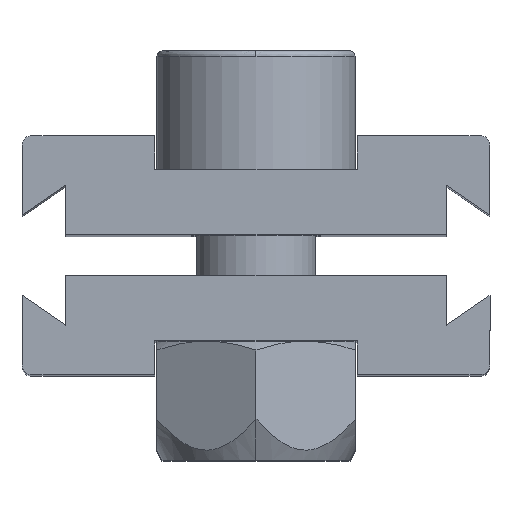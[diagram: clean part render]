
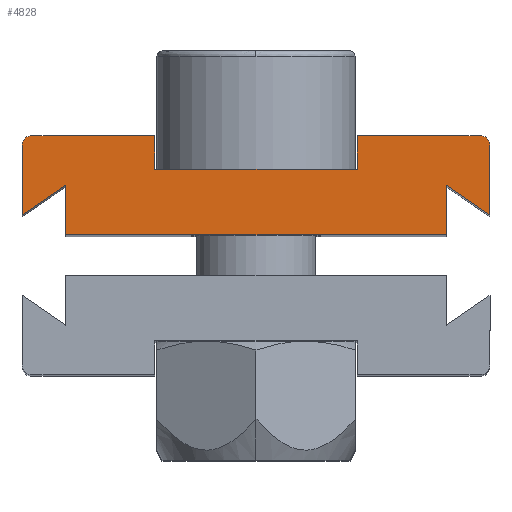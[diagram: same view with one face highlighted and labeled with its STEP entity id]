
A CAD part, top view. The second image highlights one B-rep face of the part: STEP entity #4828.
In plain terms, the highlighted planar face has unit normal (0, 0, 1).
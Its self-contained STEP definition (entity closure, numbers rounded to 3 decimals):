
#14 = LINE ( 'NONE', #1816, #3374 ) ;
#65 = ORIENTED_EDGE ( 'NONE', *, *, #328, .T. ) ;
#98 = LINE ( 'NONE', #1991, #2692 ) ;
#123 = CIRCLE ( 'NONE', #4465, 0.5 ) ;
#215 = VECTOR ( 'NONE', #1775, 1000. ) ;
#240 = DIRECTION ( 'NONE',  ( 0., 0., -1. ) ) ;
#265 = VERTEX_POINT ( 'NONE', #1404 ) ;
#284 = EDGE_CURVE ( 'NONE', #2846, #265, #1790, .T. ) ;
#297 = CARTESIAN_POINT ( 'NONE',  ( -11.3, 6.027, 0. ) ) ;
#328 = EDGE_CURVE ( 'NONE', #2566, #3628, #14, .T. ) ;
#346 = AXIS2_PLACEMENT_3D ( 'NONE', #4877, #4152, #3793 ) ;
#391 = CARTESIAN_POINT ( 'NONE',  ( 11.8, 5.527, 0. ) ) ;
#441 = ORIENTED_EDGE ( 'NONE', *, *, #4748, .F. ) ;
#452 = LINE ( 'NONE', #297, #2397 ) ;
#500 = ORIENTED_EDGE ( 'NONE', *, *, #2763, .T. ) ;
#570 = ORIENTED_EDGE ( 'NONE', *, *, #2591, .T. ) ;
#602 = LINE ( 'NONE', #868, #3008 ) ;
#625 = ORIENTED_EDGE ( 'NONE', *, *, #4641, .T. ) ;
#660 = CARTESIAN_POINT ( 'NONE',  ( -11.3, 6.027, 0. ) ) ;
#662 = CARTESIAN_POINT ( 'NONE',  ( 5.1, 6.027, 0. ) ) ;
#693 = LINE ( 'NONE', #3277, #215 ) ;
#745 = CARTESIAN_POINT ( 'NONE',  ( 11.3, 6.027, 0. ) ) ;
#868 = CARTESIAN_POINT ( 'NONE',  ( -9.6, 5.527, 0. ) ) ;
#1009 = FACE_OUTER_BOUND ( 'NONE', #4672, .T. ) ;
#1016 = CARTESIAN_POINT ( 'NONE',  ( 9.6, 1.027, 0. ) ) ;
#1021 = VERTEX_POINT ( 'NONE', #391 ) ;
#1032 = ORIENTED_EDGE ( 'NONE', *, *, #1362, .T. ) ;
#1047 = LINE ( 'NONE', #1464, #1813 ) ;
#1059 = VECTOR ( 'NONE', #2010, 1000. ) ;
#1101 = CARTESIAN_POINT ( 'NONE',  ( -11.8, 5.527, 0. ) ) ;
#1112 = AXIS2_PLACEMENT_3D ( 'NONE', #3653, #4040, #4394 ) ;
#1126 = DIRECTION ( 'NONE',  ( -1., 0., 0. ) ) ;
#1140 = ORIENTED_EDGE ( 'NONE', *, *, #3999, .T. ) ;
#1176 = EDGE_CURVE ( 'NONE', #4318, #4144, #98, .T. ) ;
#1304 = DIRECTION ( 'NONE',  ( 0., -1., 0. ) ) ;
#1362 = EDGE_CURVE ( 'NONE', #2844, #3921, #1047, .T. ) ;
#1404 = CARTESIAN_POINT ( 'NONE',  ( -11.3, 6.027, 0. ) ) ;
#1406 = EDGE_CURVE ( 'NONE', #3035, #2566, #693, .T. ) ;
#1464 = CARTESIAN_POINT ( 'NONE',  ( -11.8, 2.027, 0. ) ) ;
#1500 = VERTEX_POINT ( 'NONE', #1101 ) ;
#1532 = CARTESIAN_POINT ( 'NONE',  ( -5.1, 4.327, 0. ) ) ;
#1546 = DIRECTION ( 'NONE',  ( 0., 1., 0. ) ) ;
#1590 = EDGE_CURVE ( 'NONE', #3076, #4318, #452, .T. ) ;
#1594 = VECTOR ( 'NONE', #4759, 1000. ) ;
#1694 = CARTESIAN_POINT ( 'NONE',  ( -5.1, 4.327, 0. ) ) ;
#1702 = CARTESIAN_POINT ( 'NONE',  ( 11.8, 2.027, 0. ) ) ;
#1775 = DIRECTION ( 'NONE',  ( 0., 1., 0. ) ) ;
#1790 = LINE ( 'NONE', #660, #3133 ) ;
#1813 = VECTOR ( 'NONE', #2904, 1000. ) ;
#1816 = CARTESIAN_POINT ( 'NONE',  ( 9.6, 3.527, 0. ) ) ;
#1850 = ORIENTED_EDGE ( 'NONE', *, *, #3504, .T. ) ;
#1910 = CARTESIAN_POINT ( 'NONE',  ( 11.8, 5.527, 0. ) ) ;
#1937 = CARTESIAN_POINT ( 'NONE',  ( -9.6, 3.527, 0. ) ) ;
#1991 = CARTESIAN_POINT ( 'NONE',  ( 5.1, 6.027, 0. ) ) ;
#2010 = DIRECTION ( 'NONE',  ( 0., -1., 0. ) ) ;
#2043 = ORIENTED_EDGE ( 'NONE', *, *, #1176, .T. ) ;
#2051 = CARTESIAN_POINT ( 'NONE',  ( 5.1, 4.327, 0. ) ) ;
#2061 = LINE ( 'NONE', #4282, #1059 ) ;
#2083 = ORIENTED_EDGE ( 'NONE', *, *, #284, .T. ) ;
#2097 = VERTEX_POINT ( 'NONE', #3626 ) ;
#2289 = LINE ( 'NONE', #1910, #4643 ) ;
#2397 = VECTOR ( 'NONE', #3747, 1000. ) ;
#2482 = LINE ( 'NONE', #3288, #1594 ) ;
#2566 = VERTEX_POINT ( 'NONE', #3639 ) ;
#2569 = PLANE ( 'NONE',  #1112 ) ;
#2591 = EDGE_CURVE ( 'NONE', #2097, #3035, #2482, .T. ) ;
#2645 = LINE ( 'NONE', #1532, #4404 ) ;
#2654 = EDGE_CURVE ( 'NONE', #3628, #1021, #2289, .T. ) ;
#2692 = VECTOR ( 'NONE', #1304, 1000. ) ;
#2763 = EDGE_CURVE ( 'NONE', #4147, #2846, #2645, .T. ) ;
#2844 = VERTEX_POINT ( 'NONE', #4627 ) ;
#2846 = VERTEX_POINT ( 'NONE', #3873 ) ;
#2887 = CIRCLE ( 'NONE', #346, 0.5 ) ;
#2904 = DIRECTION ( 'NONE',  ( 0.826, 0.563, 0. ) ) ;
#3008 = VECTOR ( 'NONE', #4631, 1000. ) ;
#3035 = VERTEX_POINT ( 'NONE', #1016 ) ;
#3054 = DIRECTION ( 'NONE',  ( 0., 1., 0. ) ) ;
#3076 = VERTEX_POINT ( 'NONE', #745 ) ;
#3103 = LINE ( 'NONE', #3410, #3883 ) ;
#3120 = EDGE_CURVE ( 'NONE', #3076, #1021, #2887, .T. ) ;
#3133 = VECTOR ( 'NONE', #4025, 1000. ) ;
#3253 = DIRECTION ( 'NONE',  ( 0.826, -0.563, 0. ) ) ;
#3258 = ORIENTED_EDGE ( 'NONE', *, *, #3120, .F. ) ;
#3277 = CARTESIAN_POINT ( 'NONE',  ( 9.6, 5.527, 0. ) ) ;
#3288 = CARTESIAN_POINT ( 'NONE',  ( -9.6, 1.027, 0. ) ) ;
#3374 = VECTOR ( 'NONE', #3253, 1000. ) ;
#3410 = CARTESIAN_POINT ( 'NONE',  ( -11.3, 4.327, 0. ) ) ;
#3448 = ORIENTED_EDGE ( 'NONE', *, *, #1590, .T. ) ;
#3504 = EDGE_CURVE ( 'NONE', #1500, #2844, #2061, .T. ) ;
#3626 = CARTESIAN_POINT ( 'NONE',  ( -9.6, 1.027, 0. ) ) ;
#3628 = VERTEX_POINT ( 'NONE', #1702 ) ;
#3639 = CARTESIAN_POINT ( 'NONE',  ( 9.6, 3.527, 0. ) ) ;
#3653 = CARTESIAN_POINT ( 'NONE',  ( -11.3, 5.527, 0. ) ) ;
#3747 = DIRECTION ( 'NONE',  ( -1., 0., 0. ) ) ;
#3793 = DIRECTION ( 'NONE',  ( -1., 0., 0. ) ) ;
#3873 = CARTESIAN_POINT ( 'NONE',  ( -5.1, 6.027, 0. ) ) ;
#3883 = VECTOR ( 'NONE', #1126, 1000. ) ;
#3921 = VERTEX_POINT ( 'NONE', #1937 ) ;
#3999 = EDGE_CURVE ( 'NONE', #4144, #4147, #3103, .T. ) ;
#4025 = DIRECTION ( 'NONE',  ( -1., 0., 0. ) ) ;
#4040 = DIRECTION ( 'NONE',  ( 0., 0., 1. ) ) ;
#4095 = DIRECTION ( 'NONE',  ( -1., 0., 0. ) ) ;
#4144 = VERTEX_POINT ( 'NONE', #2051 ) ;
#4147 = VERTEX_POINT ( 'NONE', #1694 ) ;
#4152 = DIRECTION ( 'NONE',  ( 0., 0., -1. ) ) ;
#4282 = CARTESIAN_POINT ( 'NONE',  ( -11.8, 5.527, 0. ) ) ;
#4313 = ORIENTED_EDGE ( 'NONE', *, *, #2654, .T. ) ;
#4318 = VERTEX_POINT ( 'NONE', #662 ) ;
#4394 = DIRECTION ( 'NONE',  ( 1., 0., 0. ) ) ;
#4404 = VECTOR ( 'NONE', #3054, 1000. ) ;
#4465 = AXIS2_PLACEMENT_3D ( 'NONE', #4757, #240, #4095 ) ;
#4627 = CARTESIAN_POINT ( 'NONE',  ( -11.8, 2.027, 0. ) ) ;
#4631 = DIRECTION ( 'NONE',  ( 0., -1., 0. ) ) ;
#4641 = EDGE_CURVE ( 'NONE', #3921, #2097, #602, .T. ) ;
#4643 = VECTOR ( 'NONE', #1546, 1000. ) ;
#4672 = EDGE_LOOP ( 'NONE', ( #65, #4313, #3258, #3448, #2043, #1140, #500, #2083, #441, #1850, #1032, #625, #570, #4744 ) ) ;
#4744 = ORIENTED_EDGE ( 'NONE', *, *, #1406, .T. ) ;
#4748 = EDGE_CURVE ( 'NONE', #1500, #265, #123, .T. ) ;
#4757 = CARTESIAN_POINT ( 'NONE',  ( -11.3, 5.527, 0. ) ) ;
#4759 = DIRECTION ( 'NONE',  ( 1., 0., 0. ) ) ;
#4828 = ADVANCED_FACE ( 'NONE', ( #1009 ), #2569, .T. ) ;
#4877 = CARTESIAN_POINT ( 'NONE',  ( 11.3, 5.527, 0. ) ) ;
